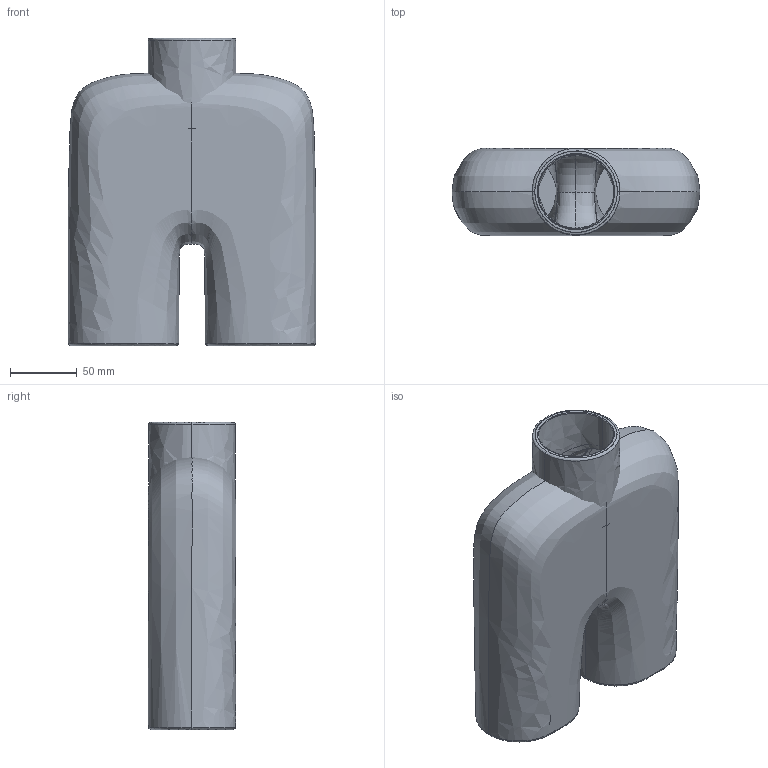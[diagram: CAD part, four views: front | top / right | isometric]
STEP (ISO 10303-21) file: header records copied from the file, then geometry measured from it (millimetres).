
FILE_DESCRIPTION(/* description */ (''),/* implementation_level */ '2;1');
FILE_NAME(/* name */ 'Cobra Mini Tall',/* time_stamp */ '2020-07-07T11:24:12+02:00',/* author */ (''),/* organization */ (''),/* preprocessor_version */ 'ST-DEVELOPER v15',/* originating_system */ '',/* authorisation */ '');
FILE_SCHEMA (('AUTOMOTIVE_DESIGN'));
Length unit declared in the file: millimetre
Products named in the file (1): Document
Bounding box: 185.41 x 65.09 x 229.99 mm (x, y, z)
Surface area: 208843.8 mm2 (no closed solid volume)
Topology: 0 solids, 7 shells, 71 faces, 172 edges, 102 vertices
Faces by surface type: bspline 68, plane 3
Entity records: 59709 total; most frequent: CARTESIAN_POINT 58793, ORIENTED_EDGE 300, EDGE_CURVE 172, VERTEX_POINT 102, EDGE_LOOP 72, ADVANCED_FACE 71, FACE_OUTER_BOUND 71, B_SPLINE_CURVE_WITH_KNOTS 18
